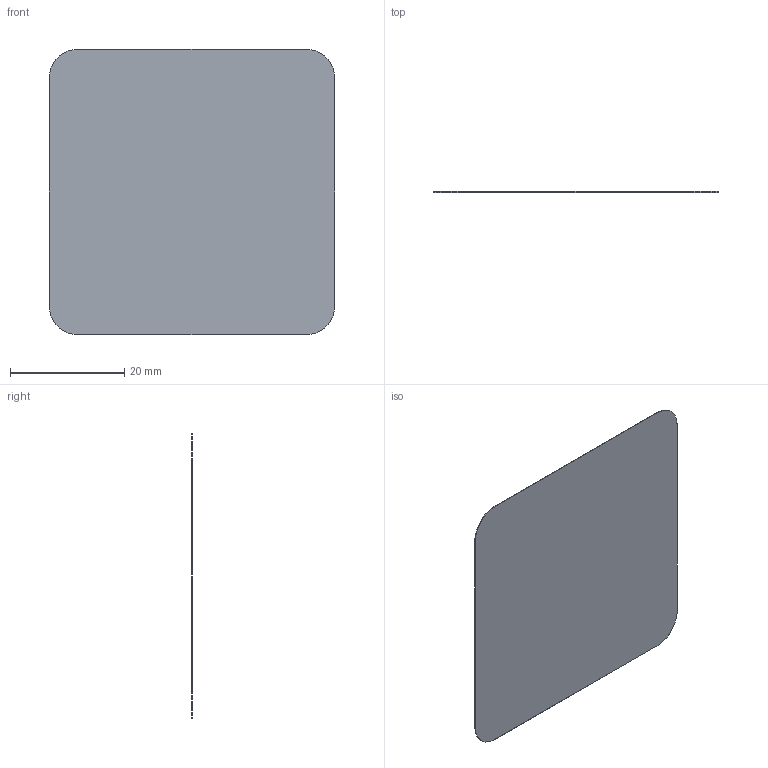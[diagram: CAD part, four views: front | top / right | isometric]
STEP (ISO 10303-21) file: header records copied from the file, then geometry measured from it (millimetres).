
FILE_DESCRIPTION(('Open CASCADE Model'),'2;1');
FILE_NAME('rear_grip_PSA_panel_0_13','2026-09-08T13:43:18',('Author'),( 'Open CASCADE'),'Open CASCADE STEP processor 7.8','build123d', 'Unknown');
FILE_SCHEMA(('AUTOMOTIVE_DESIGN { 1 0 10303 214 1 1 1 1 }'));
Length unit declared in the file: millimetre
Products named in the file (3): =>[0:1:1:2]; rear_grip_PSA_panel_0_13; SOLID
Assembly tree (2 placements, depth 3):
  =>[0:1:1:2]
    rear_grip_PSA_panel_0_13
      SOLID
Bounding box: 50 x 0.13 x 50 mm (x, y, z)
Volume: 322.2 mm3; surface area: 4982 mm2
Topology: 1 solids, 1 shells, 10 faces, 24 edges, 16 vertices
Faces by surface type: plane 6, cylinder 4
Entity records: 654 total; most frequent: DIRECTION 106, CARTESIAN_POINT 101, LINE 56, VECTOR 56, ORIENTED_EDGE 48, PCURVE 48, DEFINITIONAL_REPRESENTATION 48, EDGE_CURVE 24
